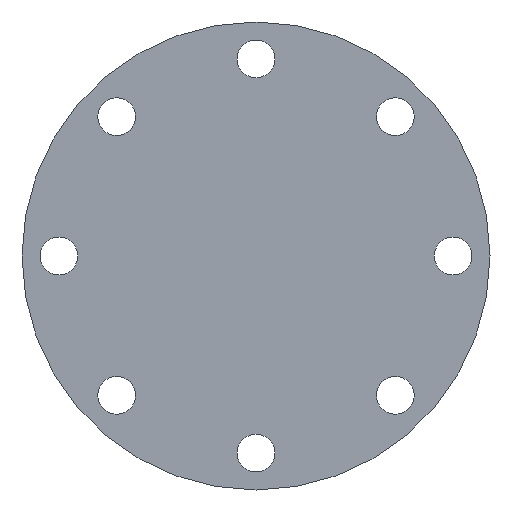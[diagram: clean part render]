
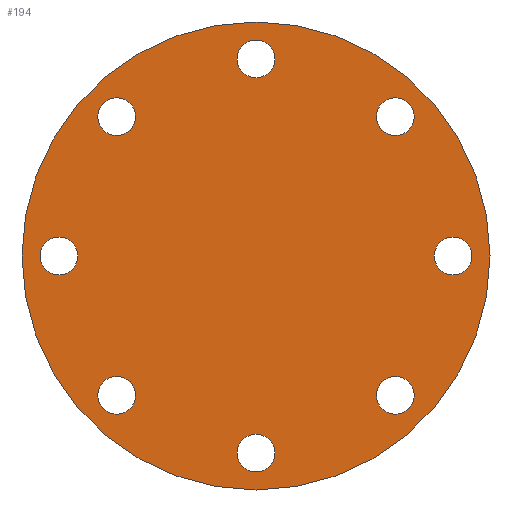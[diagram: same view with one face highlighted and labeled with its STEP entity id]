
A CAD part, front view. The second image highlights one B-rep face of the part: STEP entity #194.
In plain terms, the highlighted planar face has unit normal (0, -1, 0).
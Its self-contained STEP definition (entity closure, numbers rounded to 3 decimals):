
#13=PLANE($,#224);
#23=FACE_BOUND($,#67,.T.);
#24=FACE_BOUND($,#68,.T.);
#25=FACE_BOUND($,#69,.T.);
#26=FACE_BOUND($,#70,.T.);
#27=FACE_BOUND($,#71,.T.);
#28=FACE_BOUND($,#72,.T.);
#29=FACE_BOUND($,#73,.T.);
#30=FACE_BOUND($,#74,.T.);
#31=FACE_BOUND($,#75,.T.);
#67=EDGE_LOOP($,(#157));
#68=EDGE_LOOP($,(#158));
#69=EDGE_LOOP($,(#159));
#70=EDGE_LOOP($,(#160));
#71=EDGE_LOOP($,(#161));
#72=EDGE_LOOP($,(#162));
#73=EDGE_LOOP($,(#163));
#74=EDGE_LOOP($,(#164));
#75=EDGE_LOOP($,(#165));
#88=CIRCLE($,#202,11.5);
#90=CIRCLE($,#205,11.5);
#92=CIRCLE($,#208,11.5);
#94=CIRCLE($,#211,11.5);
#96=CIRCLE($,#214,11.5);
#98=CIRCLE($,#217,11.5);
#100=CIRCLE($,#220,11.5);
#102=CIRCLE($,#223,11.5);
#103=CIRCLE($,#225,142.5);
#106=VERTEX_POINT($,#293);
#108=VERTEX_POINT($,#298);
#110=VERTEX_POINT($,#303);
#112=VERTEX_POINT($,#308);
#114=VERTEX_POINT($,#313);
#116=VERTEX_POINT($,#318);
#118=VERTEX_POINT($,#323);
#120=VERTEX_POINT($,#328);
#121=VERTEX_POINT($,#331);
#124=EDGE_CURVE($,#106,#106,#88,.T.);
#126=EDGE_CURVE($,#108,#108,#90,.T.);
#128=EDGE_CURVE($,#110,#110,#92,.T.);
#130=EDGE_CURVE($,#112,#112,#94,.T.);
#132=EDGE_CURVE($,#114,#114,#96,.T.);
#134=EDGE_CURVE($,#116,#116,#98,.T.);
#136=EDGE_CURVE($,#118,#118,#100,.T.);
#138=EDGE_CURVE($,#120,#120,#102,.T.);
#139=EDGE_CURVE($,#121,#121,#103,.T.);
#157=ORIENTED_EDGE($,*,*,#124,.T.);
#158=ORIENTED_EDGE($,*,*,#126,.T.);
#159=ORIENTED_EDGE($,*,*,#128,.T.);
#160=ORIENTED_EDGE($,*,*,#130,.T.);
#161=ORIENTED_EDGE($,*,*,#132,.T.);
#162=ORIENTED_EDGE($,*,*,#134,.T.);
#163=ORIENTED_EDGE($,*,*,#136,.T.);
#164=ORIENTED_EDGE($,*,*,#138,.T.);
#165=ORIENTED_EDGE($,*,*,#139,.F.);
#194=ADVANCED_FACE($,(#23,#24,#25,#26,#27,#28,#29,#30,#31),#13,.T.);
#202=AXIS2_PLACEMENT_3D($,#294,#235,#236);
#205=AXIS2_PLACEMENT_3D($,#299,#241,#242);
#208=AXIS2_PLACEMENT_3D($,#304,#247,#248);
#211=AXIS2_PLACEMENT_3D($,#309,#253,#254);
#214=AXIS2_PLACEMENT_3D($,#314,#259,#260);
#217=AXIS2_PLACEMENT_3D($,#319,#265,#266);
#220=AXIS2_PLACEMENT_3D($,#324,#271,#272);
#223=AXIS2_PLACEMENT_3D($,#329,#277,#278);
#224=AXIS2_PLACEMENT_3D($,#330,#279,#280);
#225=AXIS2_PLACEMENT_3D($,#332,#281,#282);
#235=DIRECTION('center_axis',(0.,1.,0.));
#236=DIRECTION('ref_axis',(0.707,0.,0.707));
#241=DIRECTION('center_axis',(0.,1.,0.));
#242=DIRECTION('ref_axis',(0.,0.,1.));
#247=DIRECTION('center_axis',(0.,1.,0.));
#248=DIRECTION('ref_axis',(-0.707,0.,0.707));
#253=DIRECTION('center_axis',(0.,1.,0.));
#254=DIRECTION('ref_axis',(-1.,0.,0.));
#259=DIRECTION('center_axis',(0.,1.,0.));
#260=DIRECTION('ref_axis',(-0.707,0.,-0.707));
#265=DIRECTION('center_axis',(0.,1.,0.));
#266=DIRECTION('ref_axis',(0.,0.,-1.));
#271=DIRECTION('center_axis',(0.,1.,0.));
#272=DIRECTION('ref_axis',(0.707,0.,-0.707));
#277=DIRECTION('center_axis',(0.,1.,0.));
#278=DIRECTION('ref_axis',(1.,0.,0.));
#279=DIRECTION('center_axis',(0.,-1.,0.));
#280=DIRECTION('ref_axis',(0.,0.,-1.));
#281=DIRECTION('center_axis',(0.,1.,0.));
#282=DIRECTION('ref_axis',(-1.,0.,0.));
#293=CARTESIAN_POINT('',(76.721,0.,76.721));
#294=CARTESIAN_POINT('Origin',(84.853,0.,84.853));
#298=CARTESIAN_POINT('',(0.,0.,108.5));
#299=CARTESIAN_POINT('Origin',(0.,0.,120.));
#303=CARTESIAN_POINT('',(-76.721,0.,76.721));
#304=CARTESIAN_POINT('Origin',(-84.853,0.,84.853));
#308=CARTESIAN_POINT('',(-108.5,0.,0.));
#309=CARTESIAN_POINT('Origin',(-120.,0.,0.));
#313=CARTESIAN_POINT('',(-76.721,0.,-76.721));
#314=CARTESIAN_POINT('Origin',(-84.853,0.,-84.853));
#318=CARTESIAN_POINT('',(0.,0.,-108.5));
#319=CARTESIAN_POINT('Origin',(0.,0.,-120.));
#323=CARTESIAN_POINT('',(76.721,0.,-76.721));
#324=CARTESIAN_POINT('Origin',(84.853,0.,-84.853));
#328=CARTESIAN_POINT('',(108.5,0.,0.));
#329=CARTESIAN_POINT('Origin',(120.,0.,0.));
#330=CARTESIAN_POINT('Origin',(-71.25,0.,0.));
#331=CARTESIAN_POINT('',(-142.5,0.,0.));
#332=CARTESIAN_POINT('Origin',(0.,0.,0.));
